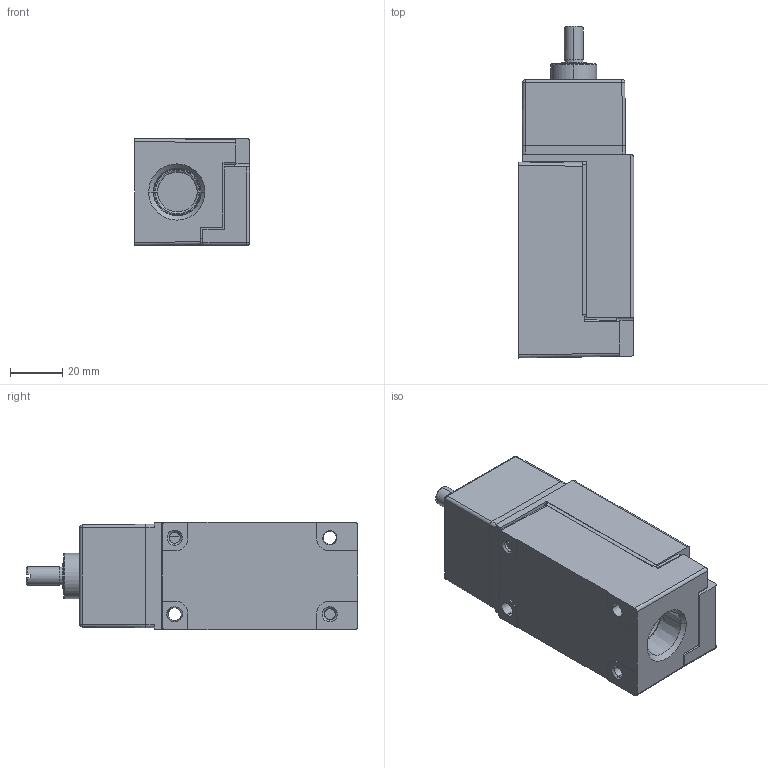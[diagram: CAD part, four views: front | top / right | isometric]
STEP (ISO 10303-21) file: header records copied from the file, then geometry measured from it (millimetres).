
FILE_DESCRIPTION((''),'2;1');
FILE_NAME('LSB1A_SW','2012-12-06T',('E522935'),(''),'PRO/ENGINEER BY PARAMETRIC TECHNOLOGY CORPORATION, 2009460','PRO/ENGINEER BY PARAMETRIC TECHNOLOGY CORPORATION, 2009460','');
FILE_SCHEMA(('CONFIG_CONTROL_DESIGN'));
Length unit declared in the file: inch
Products named in the file (1): LSB1A_SW
Bounding box: 44.32 x 127.36 x 41.15 mm (x, y, z)
Volume: 176912 mm3; surface area: 25923.5 mm2
Topology: 1 solids, 1 shells, 436 faces, 1070 edges, 656 vertices
Faces by surface type: plane 248, cylinder 130, cone 21, sphere 17, bspline 16, torus 4
Entity records: 13659 total; most frequent: CARTESIAN_POINT 3279, DIRECTION 2191, ORIENTED_EDGE 2140, EDGE_CURVE 1070, AXIS2_PLACEMENT_3D 778, VERTEX_POINT 656, VECTOR 635, LINE 635
